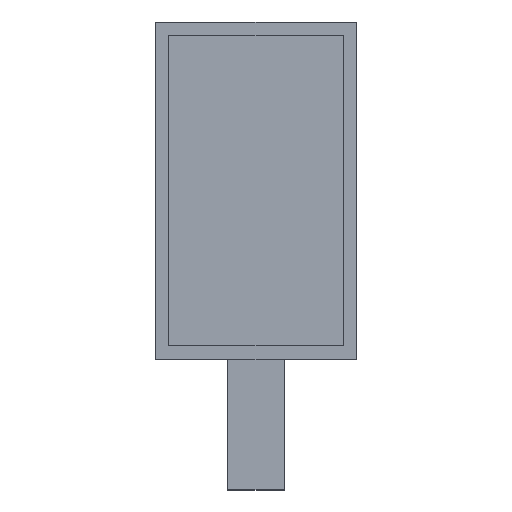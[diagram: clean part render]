
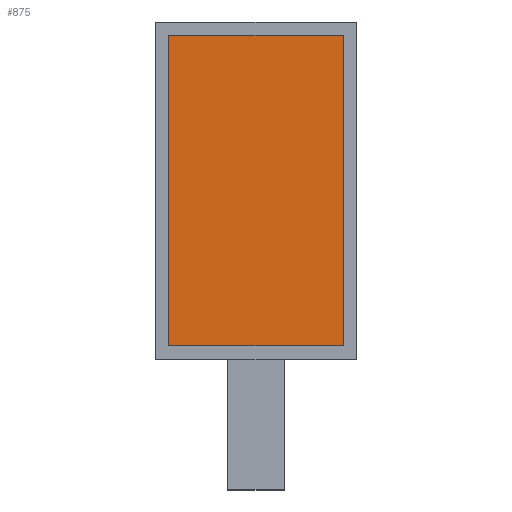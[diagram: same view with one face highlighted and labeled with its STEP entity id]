
A CAD part, top view. The second image highlights one B-rep face of the part: STEP entity #875.
In plain terms, the highlighted planar face has unit normal (0, 0, 1).
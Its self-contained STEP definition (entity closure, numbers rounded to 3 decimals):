
#45 = ORIENTED_EDGE ( 'NONE', *, *, #819, .T. ) ;
#47 = ORIENTED_EDGE ( 'NONE', *, *, #904, .T. ) ;
#67 = AXIS2_PLACEMENT_3D ( 'NONE', #948, #219, #942 ) ;
#172 = LINE ( 'NONE', #181, #613 ) ;
#181 = CARTESIAN_POINT ( 'NONE',  ( -466., 769., 117.5 ) ) ;
#185 = CARTESIAN_POINT ( 'NONE',  ( -466., 2430., 117.5 ) ) ;
#219 = DIRECTION ( 'NONE',  ( 0., 0., 1. ) ) ;
#223 = DIRECTION ( 'NONE',  ( 0., -1., 0. ) ) ;
#275 = VERTEX_POINT ( 'NONE', #720 ) ;
#324 = VERTEX_POINT ( 'NONE', #643 ) ;
#409 = PLANE ( 'NONE',  #67 ) ;
#410 = CARTESIAN_POINT ( 'NONE',  ( 466., 2430., 117.5 ) ) ;
#450 = EDGE_CURVE ( 'NONE', #324, #275, #1029, .T. ) ;
#522 = LINE ( 'NONE', #832, #1303 ) ;
#605 = CARTESIAN_POINT ( 'NONE',  ( 466., 769., 117.5 ) ) ;
#613 = VECTOR ( 'NONE', #902, 1000. ) ;
#643 = CARTESIAN_POINT ( 'NONE',  ( 466., 2430., 117.5 ) ) ;
#714 = ORIENTED_EDGE ( 'NONE', *, *, #450, .T. ) ;
#720 = CARTESIAN_POINT ( 'NONE',  ( -466., 2430., 117.5 ) ) ;
#739 = VECTOR ( 'NONE', #1321, 1000. ) ;
#815 = DIRECTION ( 'NONE',  ( -1., 0., 0. ) ) ;
#819 = EDGE_CURVE ( 'NONE', #822, #324, #1151, .T. ) ;
#822 = VERTEX_POINT ( 'NONE', #605 ) ;
#832 = CARTESIAN_POINT ( 'NONE',  ( -466., 2430., 117.5 ) ) ;
#875 = ADVANCED_FACE ( 'NONE', ( #1101 ), #409, .T. ) ;
#888 = EDGE_LOOP ( 'NONE', ( #47, #1281, #45, #714 ) ) ;
#902 = DIRECTION ( 'NONE',  ( 1., 0., 0. ) ) ;
#904 = EDGE_CURVE ( 'NONE', #275, #1286, #522, .T. ) ;
#942 = DIRECTION ( 'NONE',  ( 1., 0., 0. ) ) ;
#948 = CARTESIAN_POINT ( 'NONE',  ( 0., 0., 117.5 ) ) ;
#953 = CARTESIAN_POINT ( 'NONE',  ( -466., 769., 117.5 ) ) ;
#1029 = LINE ( 'NONE', #185, #1076 ) ;
#1076 = VECTOR ( 'NONE', #815, 1000. ) ;
#1101 = FACE_OUTER_BOUND ( 'NONE', #888, .T. ) ;
#1136 = EDGE_CURVE ( 'NONE', #1286, #822, #172, .T. ) ;
#1151 = LINE ( 'NONE', #410, #739 ) ;
#1281 = ORIENTED_EDGE ( 'NONE', *, *, #1136, .T. ) ;
#1286 = VERTEX_POINT ( 'NONE', #953 ) ;
#1303 = VECTOR ( 'NONE', #223, 1000. ) ;
#1321 = DIRECTION ( 'NONE',  ( 0., 1., 0. ) ) ;
